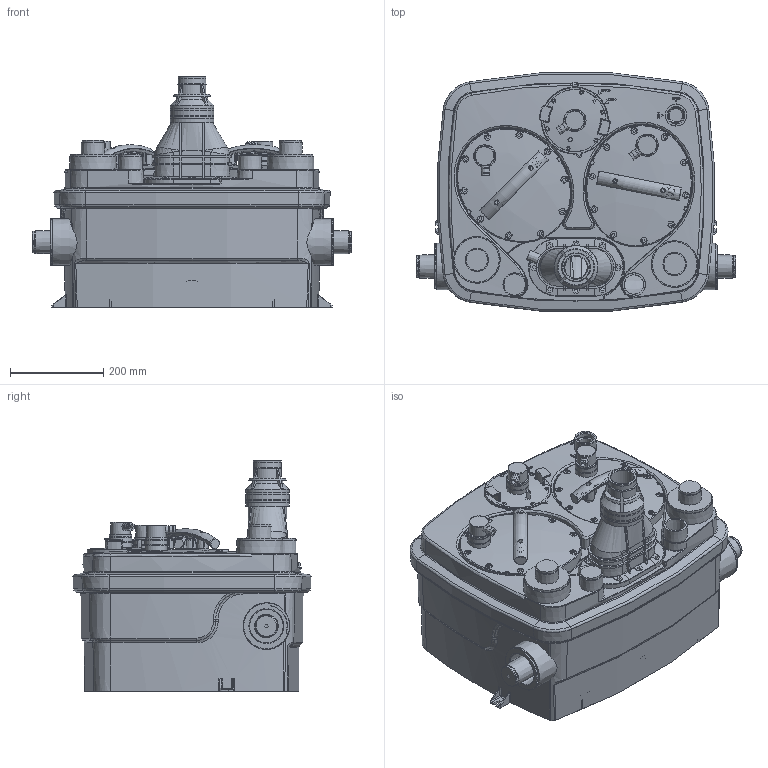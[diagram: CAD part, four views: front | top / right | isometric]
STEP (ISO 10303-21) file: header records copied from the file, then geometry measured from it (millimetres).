
FILE_DESCRIPTION (( 'STEP AP214' ), '1' );
FILE_NAME ('CUBIC 2 UP.STEP', '2017-03-01T16:10:50', ( 'VHUMBERT' ), ( '' ), 'SwSTEP 2.0', 'SolidWorks 2015', '' );
FILE_SCHEMA (( 'AUTOMOTIVE_DESIGN' ));
Length unit declared in the file: millimetre
Products named in the file (1): CUBIC 2 UP
Bounding box: 687.4 x 512.56 x 495.38 mm (x, y, z)
Volume: 7560227.9 mm3; surface area: 2926109.3 mm2
Topology: 1 solids, 1 shells, 2880 faces, 7238 edges, 4577 vertices
Faces by surface type: plane 1031, bspline 865, cylinder 338, torus 329, cone 298, sphere 19
Full cylindrical faces by diameter (mm): 5 x4, 5.2 x6, 7 x8, 9 x1, 9.5 x9, 17.5 x9, 24.3 x4, 25 x4, 28.5 x1, 33.8 x3, 34.5 x1, 40.9 x1, 41.8 x3, 46.5 x1, 48 x10, 50 x1, 60 x1, 80.56 x2, 81 x1, 93 x3, 94 x1
Entity records: 205874 total; most frequent: CARTESIAN_POINT 115817, ORIENTED_EDGE 13772, DIRECTION 9532, EDGE_CURVE 6886, VERTEX_POINT 4458, AXIS2_PLACEMENT_3D 3814, EDGE_LOOP 3354, B_SPLINE_CURVE_WITH_KNOTS 3010
